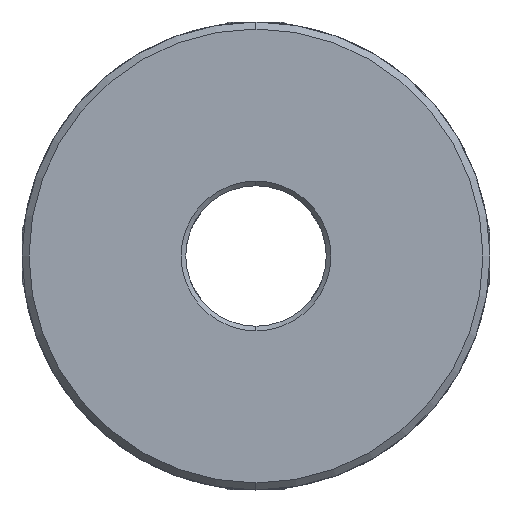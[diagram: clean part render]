
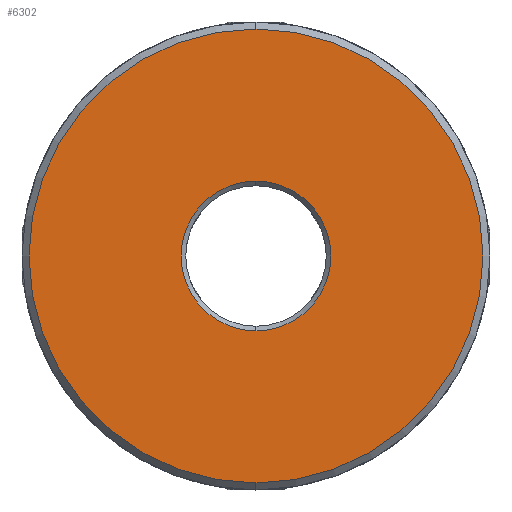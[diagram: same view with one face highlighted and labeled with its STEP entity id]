
A CAD part, front view. The second image highlights one B-rep face of the part: STEP entity #6302.
In plain terms, the highlighted planar face has unit normal (0, -1, 0).
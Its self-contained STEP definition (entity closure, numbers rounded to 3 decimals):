
#5 = DIRECTION ( 'NONE',  ( 0., 0., 1. ) ) ;
#689 = AXIS2_PLACEMENT_3D ( 'NONE', #3624, #1795, #5 ) ;
#766 = ORIENTED_EDGE ( 'NONE', *, *, #3661, .T. ) ;
#1113 = CARTESIAN_POINT ( 'NONE',  ( 0., 0., 19.4 ) ) ;
#1215 = DIRECTION ( 'NONE',  ( 0., -1., 0. ) ) ;
#1261 = CARTESIAN_POINT ( 'NONE',  ( 0., 0., -19.4 ) ) ;
#1289 = EDGE_CURVE ( 'NONE', #4211, #7820, #6066, .T. ) ;
#1637 = EDGE_LOOP ( 'NONE', ( #3285, #6031 ) ) ;
#1795 = DIRECTION ( 'NONE',  ( 0., 1., 0. ) ) ;
#1919 = VERTEX_POINT ( 'NONE', #4933 ) ;
#1921 = EDGE_LOOP ( 'NONE', ( #4951, #766 ) ) ;
#1964 = AXIS2_PLACEMENT_3D ( 'NONE', #3238, #2608, #3207 ) ;
#2597 = PLANE ( 'NONE',  #7823 ) ;
#2608 = DIRECTION ( 'NONE',  ( 0., 1., 0. ) ) ;
#3196 = DIRECTION ( 'NONE',  ( 0., 0., 1. ) ) ;
#3207 = DIRECTION ( 'NONE',  ( 0., 0., 1. ) ) ;
#3238 = CARTESIAN_POINT ( 'NONE',  ( 0., 0., 0. ) ) ;
#3285 = ORIENTED_EDGE ( 'NONE', *, *, #7817, .T. ) ;
#3531 = DIRECTION ( 'NONE',  ( 0., -1., 0. ) ) ;
#3624 = CARTESIAN_POINT ( 'NONE',  ( 0., 0., 0. ) ) ;
#3661 = EDGE_CURVE ( 'NONE', #1919, #4491, #3865, .T. ) ;
#3692 = CARTESIAN_POINT ( 'NONE',  ( 0., 0., 0. ) ) ;
#3699 = CARTESIAN_POINT ( 'NONE',  ( 24.74, 0., -50. ) ) ;
#3865 = CIRCLE ( 'NONE', #1964, 6.4 ) ;
#4200 = FACE_OUTER_BOUND ( 'NONE', #1637, .T. ) ;
#4211 = VERTEX_POINT ( 'NONE', #1261 ) ;
#4358 = CIRCLE ( 'NONE', #7222, 19.4 ) ;
#4491 = VERTEX_POINT ( 'NONE', #7682 ) ;
#4659 = CARTESIAN_POINT ( 'NONE',  ( 0., 0., 0. ) ) ;
#4872 = DIRECTION ( 'NONE',  ( 0., 0., 1. ) ) ;
#4933 = CARTESIAN_POINT ( 'NONE',  ( 0., 0., 6.4 ) ) ;
#4951 = ORIENTED_EDGE ( 'NONE', *, *, #4971, .T. ) ;
#4958 = DIRECTION ( 'NONE',  ( 0., 1., 0. ) ) ;
#4971 = EDGE_CURVE ( 'NONE', #4491, #1919, #7808, .T. ) ;
#5893 = AXIS2_PLACEMENT_3D ( 'NONE', #3692, #1215, #4872 ) ;
#6031 = ORIENTED_EDGE ( 'NONE', *, *, #1289, .T. ) ;
#6066 = CIRCLE ( 'NONE', #5893, 19.4 ) ;
#6302 = ADVANCED_FACE ( 'NONE', ( #6679, #4200 ), #2597, .F. ) ;
#6679 = FACE_BOUND ( 'NONE', #1921, .T. ) ;
#7077 = DIRECTION ( 'NONE',  ( 0., 0., 1. ) ) ;
#7222 = AXIS2_PLACEMENT_3D ( 'NONE', #4659, #3531, #7077 ) ;
#7682 = CARTESIAN_POINT ( 'NONE',  ( 0., 0., -6.4 ) ) ;
#7808 = CIRCLE ( 'NONE', #689, 6.4 ) ;
#7817 = EDGE_CURVE ( 'NONE', #7820, #4211, #4358, .T. ) ;
#7820 = VERTEX_POINT ( 'NONE', #1113 ) ;
#7823 = AXIS2_PLACEMENT_3D ( 'NONE', #3699, #4958, #3196 ) ;
